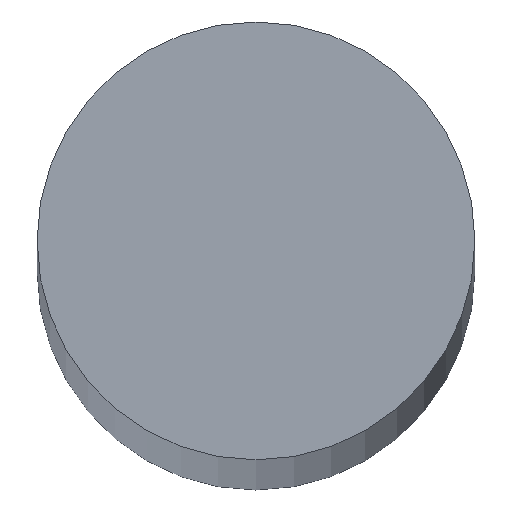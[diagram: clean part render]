
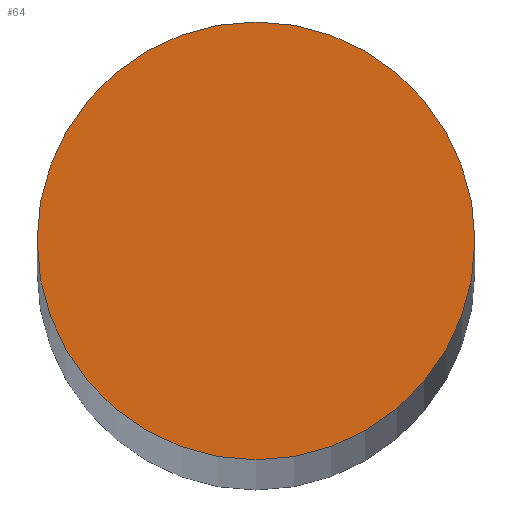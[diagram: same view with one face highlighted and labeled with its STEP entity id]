
A CAD part, top view. The second image highlights one B-rep face of the part: STEP entity #64.
In plain terms, the highlighted planar face has unit normal (0, 0, 1).
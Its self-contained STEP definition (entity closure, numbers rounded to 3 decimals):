
#4 = FACE_OUTER_BOUND ( 'NONE', #106, .T. ) ;
#6 = AXIS2_PLACEMENT_3D ( 'NONE', #117, #77, #126 ) ;
#13 = EDGE_CURVE ( 'NONE', #79, #79, #58, .T. ) ;
#27 = ORIENTED_EDGE ( 'NONE', *, *, #13, .T. ) ;
#36 = CARTESIAN_POINT ( 'NONE',  ( 0., 0., 395. ) ) ;
#58 = CIRCLE ( 'NONE', #6, 5. ) ;
#64 = ADVANCED_FACE ( 'NONE', ( #4 ), #105, .T. ) ;
#77 = DIRECTION ( 'NONE',  ( 0., 0., 1. ) ) ;
#79 = VERTEX_POINT ( 'NONE', #118 ) ;
#88 = AXIS2_PLACEMENT_3D ( 'NONE', #36, #116, #125 ) ;
#105 = PLANE ( 'NONE',  #88 ) ;
#106 = EDGE_LOOP ( 'NONE', ( #27 ) ) ;
#116 = DIRECTION ( 'NONE',  ( 0., 0., 1. ) ) ;
#117 = CARTESIAN_POINT ( 'NONE',  ( 0., 0., 395. ) ) ;
#118 = CARTESIAN_POINT ( 'NONE',  ( 5., 0., 395. ) ) ;
#125 = DIRECTION ( 'NONE',  ( 1., 0., 0. ) ) ;
#126 = DIRECTION ( 'NONE',  ( 1., 0., 0. ) ) ;
